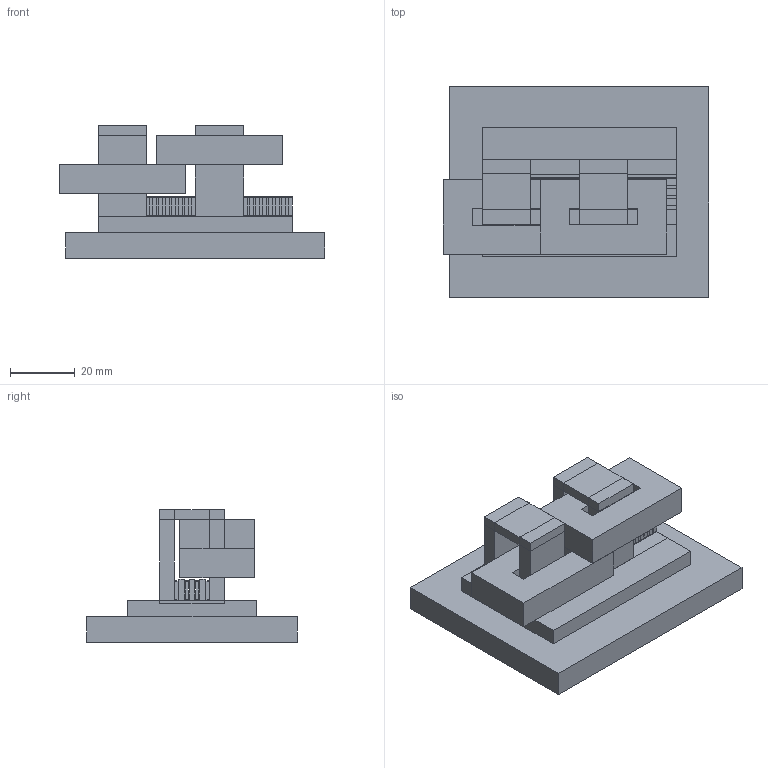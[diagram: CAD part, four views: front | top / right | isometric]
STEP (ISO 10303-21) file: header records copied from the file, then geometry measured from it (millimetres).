
FILE_DESCRIPTION(('Open CASCADE Model'),'2;1');
FILE_NAME('Open CASCADE Shape Model','2026-08-13T21:24:42',('Author'),( 'Open CASCADE'),'Open CASCADE STEP processor 7.7','Open CASCADE 7.7' ,'Unknown');
FILE_SCHEMA(('AUTOMOTIVE_DESIGN { 1 0 10303 214 1 1 1 1 }'));
Length unit declared in the file: millimetre
Products named in the file (266): Open CASCADE STEP translator 7.7 6; Open CASCADE STEP translator 7.7 6.1; Open CASCADE STEP translator 7.7 6.2; Open CASCADE STEP translator 7.7 6.3; Open CASCADE STEP translator 7.7 6.4; Open CASCADE STEP translator 7.7 6.5; Open CASCADE STEP translator 7.7 6.6; Open CASCADE STEP translator 7.7 6.7; Open CASCADE STEP translator 7.7 6.8; Open CASCADE STEP translator 7.7 6.9; Open CASCADE STEP translator 7.7 6.10; Open CASCADE STEP translator 7.7 6.11; Open CASCADE STEP translator 7.7 6.12; Open CASCADE STEP translator 7.7 6.13; Open CASCADE STEP translator 7.7 6.14; Open CASCADE STEP translator 7.7 6.15; Open CASCADE STEP translator 7.7 6.16; Open CASCADE STEP translator 7.7 6.17; Open CASCADE STEP translator 7.7 6.18; Open CASCADE STEP translator 7.7 6.19; Open CASCADE STEP translator 7.7 6.20; Open CASCADE STEP translator 7.7 6.21; Open CASCADE STEP translator 7.7 6.22; Open CASCADE STEP translator 7.7 6.23; Open CASCADE STEP translator 7.7 6.24; Open CASCADE STEP translator 7.7 6.25; Open CASCADE STEP translator 7.7 6.26; Open CASCADE STEP translator 7.7 6.27; Open CASCADE STEP translator 7.7 6.28; Open CASCADE STEP translator 7.7 6.29; Open CASCADE STEP translator 7.7 6.30; Open CASCADE STEP translator 7.7 6.31; Open CASCADE STEP translator 7.7 6.32; Open CASCADE STEP translator 7.7 6.33; Open CASCADE STEP translator 7.7 6.34; Open CASCADE STEP translator 7.7 6.35; Open CASCADE STEP translator 7.7 6.36; Open CASCADE STEP translator 7.7 6.37; Open CASCADE STEP translator 7.7 6.38; Open CASCADE STEP translator 7.7 6.39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
Assembly tree (265 placements, depth 2):
  Open CASCADE STEP translator 7.7 6
    Open CASCADE STEP translator 7.7 6.1
    Open CASCADE STEP translator 7.7 6.2
    Open CASCADE STEP translator 7.7 6.3
    Open CASCADE STEP translator 7.7 6.4
    Open CASCADE STEP translator 7.7 6.5
    Open CASCADE STEP translator 7.7 6.6
    Open CASCADE STEP translator 7.7 6.7
    Open CASCADE STEP translator 7.7 6.8
    Open CASCADE STEP translator 7.7 6.9
    Open CASCADE STEP translator 7.7 6.10
    Open CASCADE STEP translator 7.7 6.11
    Open CASCADE STEP translator 7.7 6.12
    Open CASCADE STEP translator 7.7 6.13
    Open CASCADE STEP translator 7.7 6.14
    Open CASCADE STEP translator 7.7 6.15
    Open CASCADE STEP translator 7.7 6.16
    Open CASCADE STEP translator 7.7 6.17
    Open CASCADE STEP translator 7.7 6.18
    Open CASCADE STEP translator 7.7 6.19
    Open CASCADE STEP translator 7.7 6.20
    Open CASCADE STEP translator 7.7 6.21
    Open CASCADE STEP translator 7.7 6.22
    Open CASCADE STEP translator 7.7 6.23
    Open CASCADE STEP translator 7.7 6.24
    Open CASCADE STEP translator 7.7 6.25
    Open CASCADE STEP translator 7.7 6.26
    Open CASCADE STEP translator 7.7 6.27
    Open CASCADE STEP translator 7.7 6.28
    Open CASCADE STEP translator 7.7 6.29
    Open CASCADE STEP translator 7.7 6.30
    Open CASCADE STEP translator 7.7 6.31
    Open CASCADE STEP translator 7.7 6.32
    Open CASCADE STEP translator 7.7 6.33
    Open CASCADE STEP translator 7.7 6.34
    Open CASCADE STEP translator 7.7 6.35
    Open CASCADE STEP translator 7.7 6.36
    Open CASCADE STEP translator 7.7 6.37
    Open CASCADE STEP translator 7.7 6.38
    Open CASCADE STEP translator 7.7 6.39
    Open CASCADE STEP translator 7.7 6.40
    Open CASCADE STEP translator 7.7 6.41
    Open CASCADE STEP translator 7.7 6.42
    Open CASCADE STEP translator 7.7 6.43
    Open CASCADE STEP translator 7.7 6.44
    Open CASCADE STEP translator 7.7 6.45
    Open CASCADE STEP translator 7.7 6.46
    Open CASCADE STEP translator 7.7 6.47
    Open CASCADE STEP translator 7.7 6.48
    Open CASCADE STEP translator 7.7 6.49
    Open CASCADE STEP translator 7.7 6.50
    Open CASCADE STEP translator 7.7 6.51
    Open CASCADE STEP translator 7.7 6.52
    Open CASCADE STEP translator 7.7 6.53
    Open CASCADE STEP translator 7.7 6.54
    Open CASCADE STEP translator 7.7 6.55
    Open CASCADE STEP translator 7.7 6.56
    Open CASCADE STEP translator 7.7 6.57
    Open CASCADE STEP translator 7.7 6.58
    Open CASCADE STEP translator 7.7 6.59
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Bounding box: 82 x 65 x 41 mm (x, y, z)
Volume: 80900.9 mm3; surface area: 42532.3 mm2
Topology: 265 solids, 265 shells, 1598 faces, 3204 edges, 2136 vertices
Faces by surface type: plane 1598
Entity records: 86428 total; most frequent: CARTESIAN_POINT 13644, DIRECTION 13308, LINE 9580, VECTOR 9580, ORIENTED_EDGE 6408, PCURVE 6408, DEFINITIONAL_REPRESENTATION 6408, EDGE_CURVE 3204
